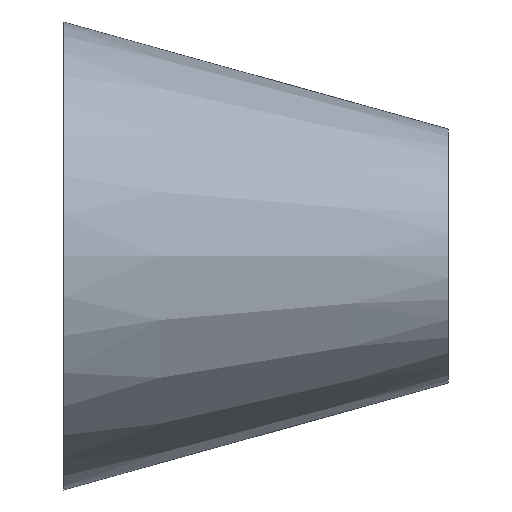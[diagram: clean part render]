
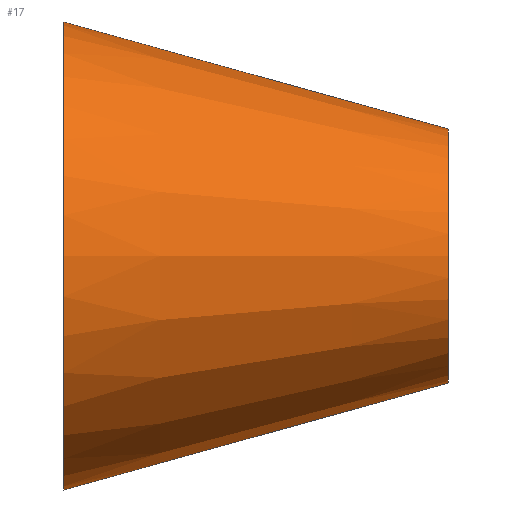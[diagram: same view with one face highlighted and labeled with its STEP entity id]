
A CAD part, front view. The second image highlights one B-rep face of the part: STEP entity #17.
In plain terms, the highlighted conical face has half-angle 15.552 degrees and reference radius 64.5 mm.
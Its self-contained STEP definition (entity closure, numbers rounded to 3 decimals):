
#17 = ADVANCED_FACE('',(#18),#31,.T.);
#18 = FACE_BOUND('',#19,.T.);
#19 = EDGE_LOOP('',(#20,#54,#74,#101));
#20 = ORIENTED_EDGE('',*,*,#21,.T.);
#21 = EDGE_CURVE('',#22,#22,#24,.T.);
#22 = VERTEX_POINT('',#23);
#23 = CARTESIAN_POINT('',(0.,64.5,0.));
#24 = SURFACE_CURVE('',#25,(#30,#42),.PCURVE_S1.);
#25 = CIRCLE('',#26,64.5);
#26 = AXIS2_PLACEMENT_3D('',#27,#28,#29);
#27 = CARTESIAN_POINT('',(0.,0.,0.));
#28 = DIRECTION('',(1.,0.,0.));
#29 = DIRECTION('',(0.,1.,0.));
#30 = PCURVE('',#31,#36);
#31 = CONICAL_SURFACE('',#32,64.5,0.271);
#32 = AXIS2_PLACEMENT_3D('',#33,#34,#35);
#33 = CARTESIAN_POINT('',(0.,0.,0.));
#34 = DIRECTION('',(-1.,-0.,-0.));
#35 = DIRECTION('',(0.,1.,0.));
#36 = DEFINITIONAL_REPRESENTATION('',(#37),#41);
#37 = LINE('',#38,#39);
#38 = CARTESIAN_POINT('',(-0.,-0.));
#39 = VECTOR('',#40,1.);
#40 = DIRECTION('',(-1.,-0.));
#41 = ( GEOMETRIC_REPRESENTATION_CONTEXT(2) 
PARAMETRIC_REPRESENTATION_CONTEXT() REPRESENTATION_CONTEXT('2D SPACE',''
  ) );
#42 = PCURVE('',#43,#48);
#43 = PLANE('',#44);
#44 = AXIS2_PLACEMENT_3D('',#45,#46,#47);
#45 = CARTESIAN_POINT('',(0.,0.,0.));
#46 = DIRECTION('',(1.,0.,0.));
#47 = DIRECTION('',(0.,1.,0.));
#48 = DEFINITIONAL_REPRESENTATION('',(#49),#53);
#49 = CIRCLE('',#50,64.5);
#50 = AXIS2_PLACEMENT_2D('',#51,#52);
#51 = CARTESIAN_POINT('',(0.,0.));
#52 = DIRECTION('',(1.,0.));
#53 = ( GEOMETRIC_REPRESENTATION_CONTEXT(2) 
PARAMETRIC_REPRESENTATION_CONTEXT() REPRESENTATION_CONTEXT('2D SPACE',''
  ) );
#54 = ORIENTED_EDGE('',*,*,#55,.T.);
#55 = EDGE_CURVE('',#22,#56,#58,.T.);
#56 = VERTEX_POINT('',#57);
#57 = CARTESIAN_POINT('',(106.,35.,0.));
#58 = SEAM_CURVE('',#59,(#62,#68),.PCURVE_S1.);
#59 = B_SPLINE_CURVE_WITH_KNOTS('',1,(#60,#61),.UNSPECIFIED.,.F.,.F.,(2,
    2),(0.,1.),.PIECEWISE_BEZIER_KNOTS.);
#60 = CARTESIAN_POINT('',(0.,64.5,0.));
#61 = CARTESIAN_POINT('',(106.,35.,0.));
#62 = PCURVE('',#31,#63);
#63 = DEFINITIONAL_REPRESENTATION('',(#64),#67);
#64 = B_SPLINE_CURVE_WITH_KNOTS('',1,(#65,#66),.UNSPECIFIED.,.F.,.F.,(2,
    2),(0.,1.),.PIECEWISE_BEZIER_KNOTS.);
#65 = CARTESIAN_POINT('',(-6.283,0.));
#66 = CARTESIAN_POINT('',(-6.283,-106.));
#67 = ( GEOMETRIC_REPRESENTATION_CONTEXT(2) 
PARAMETRIC_REPRESENTATION_CONTEXT() REPRESENTATION_CONTEXT('2D SPACE',''
  ) );
#68 = PCURVE('',#31,#69);
#69 = DEFINITIONAL_REPRESENTATION('',(#70),#73);
#70 = B_SPLINE_CURVE_WITH_KNOTS('',1,(#71,#72),.UNSPECIFIED.,.F.,.F.,(2,
    2),(0.,1.),.PIECEWISE_BEZIER_KNOTS.);
#71 = CARTESIAN_POINT('',(0.,0.));
#72 = CARTESIAN_POINT('',(0.,-106.));
#73 = ( GEOMETRIC_REPRESENTATION_CONTEXT(2) 
PARAMETRIC_REPRESENTATION_CONTEXT() REPRESENTATION_CONTEXT('2D SPACE',''
  ) );
#74 = ORIENTED_EDGE('',*,*,#75,.F.);
#75 = EDGE_CURVE('',#56,#56,#76,.T.);
#76 = SURFACE_CURVE('',#77,(#82,#89),.PCURVE_S1.);
#77 = CIRCLE('',#78,35.);
#78 = AXIS2_PLACEMENT_3D('',#79,#80,#81);
#79 = CARTESIAN_POINT('',(106.,0.,0.));
#80 = DIRECTION('',(1.,0.,0.));
#81 = DIRECTION('',(0.,1.,0.));
#82 = PCURVE('',#31,#83);
#83 = DEFINITIONAL_REPRESENTATION('',(#84),#88);
#84 = LINE('',#85,#86);
#85 = CARTESIAN_POINT('',(-0.,-106.));
#86 = VECTOR('',#87,1.);
#87 = DIRECTION('',(-1.,-0.));
#88 = ( GEOMETRIC_REPRESENTATION_CONTEXT(2) 
PARAMETRIC_REPRESENTATION_CONTEXT() REPRESENTATION_CONTEXT('2D SPACE',''
  ) );
#89 = PCURVE('',#90,#95);
#90 = PLANE('',#91);
#91 = AXIS2_PLACEMENT_3D('',#92,#93,#94);
#92 = CARTESIAN_POINT('',(106.,0.,0.));
#93 = DIRECTION('',(1.,0.,0.));
#94 = DIRECTION('',(0.,1.,0.));
#95 = DEFINITIONAL_REPRESENTATION('',(#96),#100);
#96 = CIRCLE('',#97,35.);
#97 = AXIS2_PLACEMENT_2D('',#98,#99);
#98 = CARTESIAN_POINT('',(0.,0.));
#99 = DIRECTION('',(1.,0.));
#100 = ( GEOMETRIC_REPRESENTATION_CONTEXT(2) 
PARAMETRIC_REPRESENTATION_CONTEXT() REPRESENTATION_CONTEXT('2D SPACE',''
  ) );
#101 = ORIENTED_EDGE('',*,*,#55,.F.);
